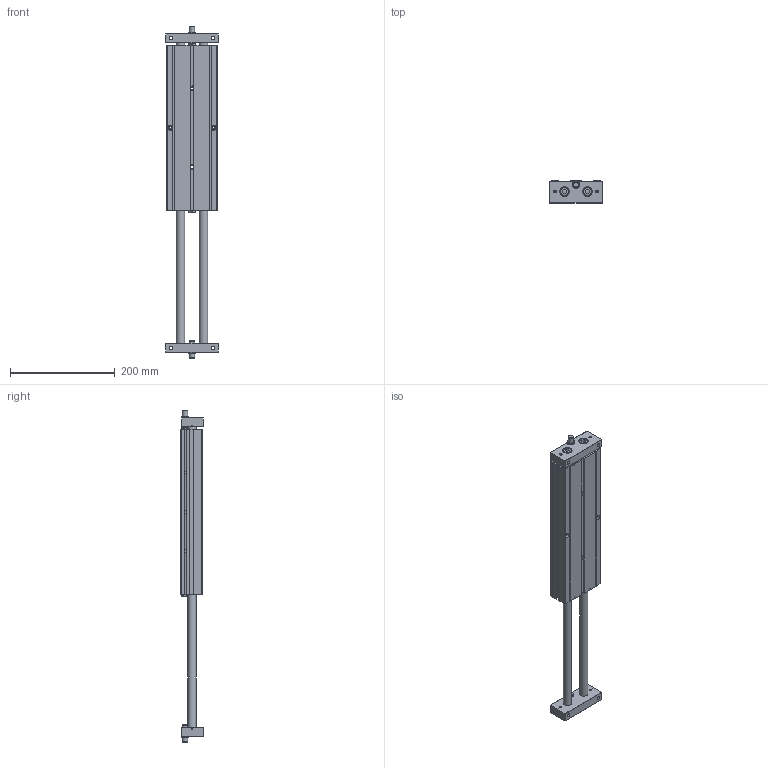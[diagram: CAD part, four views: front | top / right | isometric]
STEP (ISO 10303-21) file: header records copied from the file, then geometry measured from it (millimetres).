
FILE_DESCRIPTION((''),'2;1');
FILE_NAME('I:\3D電子目錄\氣缸\STU\STU\STU32\STU32x250.stp','2007-10-01T14:06:43',('Administrator'),(''),'Autodesk Inventor 11','Autodesk Inventor 11','');
FILE_SCHEMA(('AUTOMOTIVE_DESIGN { 1 0 10303 214 1 1 1 1 }'));
Length unit declared in the file: millimetre
Products named in the file (1): STU32
Bounding box: 100 x 42.5 x 635 mm (x, y, z)
Volume: 1388425.1 mm3; surface area: 182486.4 mm2
Topology: 1 solids, 1 shells, 315 faces, 744 edges, 472 vertices
Faces by surface type: plane 145, cone 76, bspline 62, cylinder 28, torus 4
Full cylindrical faces by diameter (mm): 2.459 x2, 9.5 x4, 10 x4, 16 x6, 17.5 x4, 34 x2, 35.9 x2
Entity records: 9985 total; most frequent: CARTESIAN_POINT 3594, ORIENTED_EDGE 1220, DIRECTION 1212, EDGE_CURVE 610, EDGE_LOOP 518, AXIS2_PLACEMENT_3D 464, VERTEX_POINT 446, FACE_OUTER_BOUND 315
